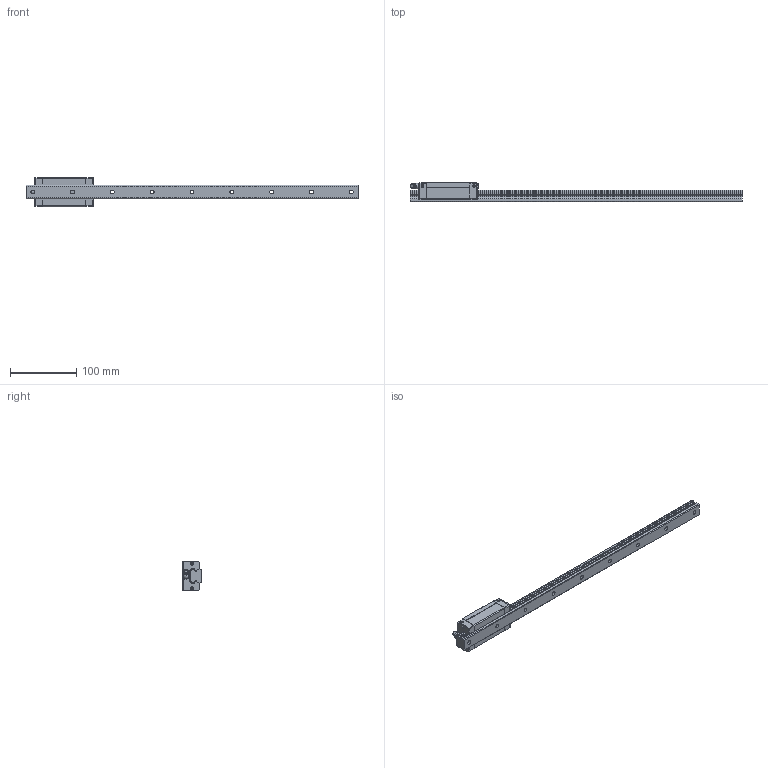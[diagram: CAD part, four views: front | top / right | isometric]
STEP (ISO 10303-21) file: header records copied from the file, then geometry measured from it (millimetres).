
FILE_DESCRIPTION(/* description */ ('STEP AP214'),/* implementation_level */ '2;1');
FILE_NAME(/* name */ 'D:\Katalogi inne\Technika liniowa\NATECH\Modele 3D\nowe 11.02.2026\SHAC_GHH20HA1R500Z0C101011\NGH20HAZ0C.stp',/* time_stamp */ '2026-02-11T16:00:03+01:00',/* author */ ('dnia_tomasz_tm'),/* organization */ (''),/* preprocessor_version */ 'ST-DEVELOPER v16.13',/* originating_system */ 'Autodesk Inventor 2018',/* authorisation */ ' ');
FILE_SCHEMA (('AUTOMOTIVE_DESIGN { 1 0 10303 214 3 1 1 }'));
Length unit declared in the file: millimetre
Products named in the file (8): GHH20HA1R500Z0C-10_10(1_1); GHR20R500C+RC-10_10(1)_RAIL; GHH20HA_SLIDER; GH20_BOLT; GHH20HA_C; GHH20HA_P; GH20_SCREW; GH20-_G
Assembly tree (12 placements, depth 2):
  GHH20HA1R500Z0C-10_10(1_1)
    GHR20R500C+RC-10_10(1)_RAIL
    GHH20HA_SLIDER
    GHH20HA_C  x2
    GHH20HA_P  x2
    GH20_SCREW  x4
    GH20_BOLT
    GH20-_G
Bounding box: 500 x 30 x 44 mm (x, y, z)
Volume: 226509.7 mm3; surface area: 65936 mm2
Topology: 12 solids, 12 shells, 455 faces, 1178 edges, 774 vertices
Faces by surface type: plane 343, cylinder 72, cone 24, torus 10, sphere 5, bspline 1
Full cylindrical faces by diameter (mm): 0.53 x4, 3.414 x4, 3.93 x6, 4.134 x4, 4.5 x1, 6 x11, 8 x1, 8.2 x1, 9.5 x9
Entity records: 8773 total; most frequent: CARTESIAN_POINT 1556, DIRECTION 1415, ORIENTED_EDGE 1362, EDGE_CURVE 681, LINE 503, VECTOR 503, VERTEX_POINT 477, AXIS2_PLACEMENT_3D 456
